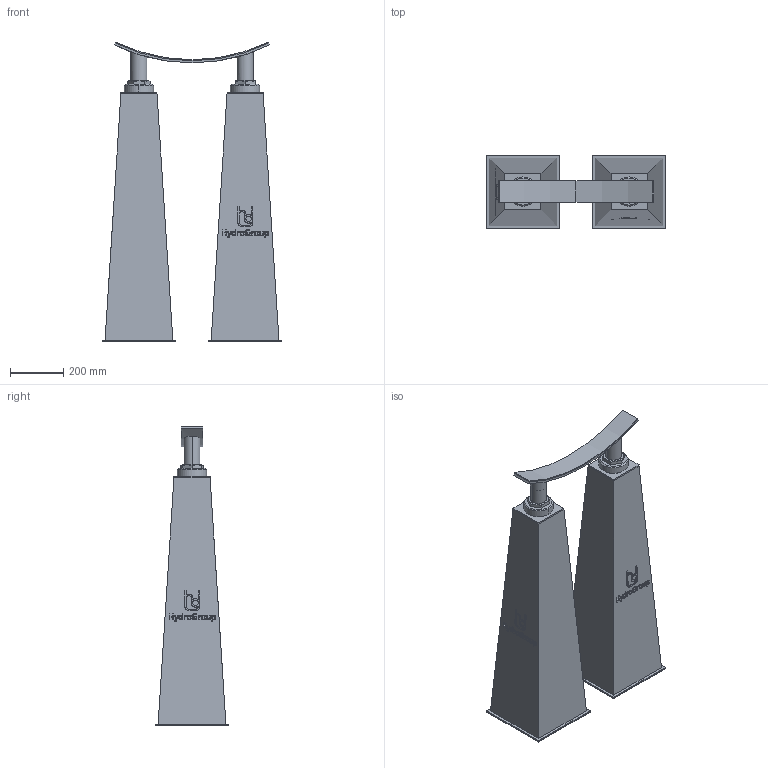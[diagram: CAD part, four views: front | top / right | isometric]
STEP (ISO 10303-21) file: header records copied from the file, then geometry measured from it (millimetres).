
FILE_DESCRIPTION(('STEP AP214'),'1');
FILE_NAME('RSRFE-III-DUO_DN1300.stp','2018-06-29T07:55:51',(' '),(' '),'Spatial InterOp 3D',' ',' ');
FILE_SCHEMA(('automotive_design'));
Length unit declared in the file: millimetre
Products named in the file (10): 1; 2; 3; 4; 5; 6; 7; 8; 9; 10
Bounding box: 676.01 x 276.01 x 1130.43 mm (x, y, z)
Volume: 77561181.2 mm3; surface area: 2413221.3 mm2
Topology: 10 solids, 11 shells, 417 faces, 1034 edges, 676 vertices
Faces by surface type: plane 270, cylinder 69, extrusion 48, cone 30
Entity records: 17369 total; most frequent: CARTESIAN_POINT 4005, ORIENTED_EDGE 2068, DIRECTION 1868, EDGE_CURVE 1034, VECTOR 798, LINE 750, VERTEX_POINT 676, AXIS2_PLACEMENT_3D 535
